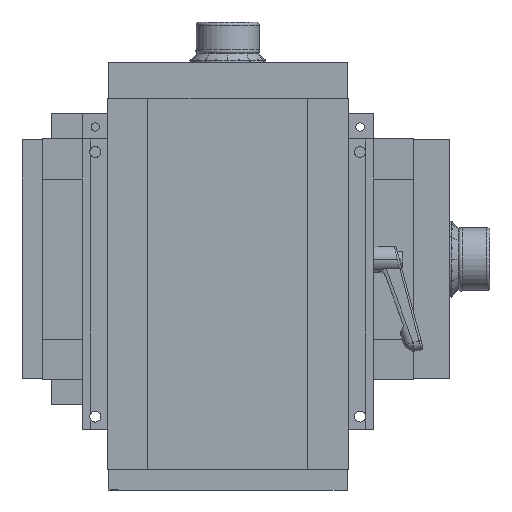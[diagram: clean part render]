
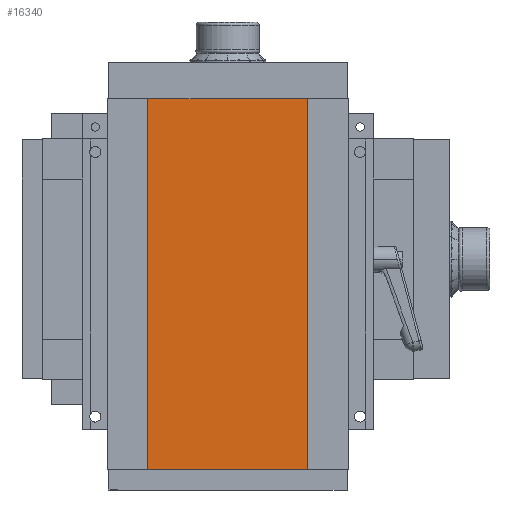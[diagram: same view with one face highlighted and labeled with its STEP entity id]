
A CAD part, front view. The second image highlights one B-rep face of the part: STEP entity #16340.
In plain terms, the highlighted planar face has unit normal (0, -1, 0).
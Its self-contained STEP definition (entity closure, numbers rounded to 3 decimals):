
#1720 = VERTEX_POINT ( 'NONE', #19013 ) ;
#18509 = VERTEX_POINT ( 'NONE', #14026 ) ;
#18731 = EDGE_CURVE ( 'NONE', #18509, #19817, #14148, .T. ) ;
#19013 = CARTESIAN_POINT ( 'NONE',  ( 41.155, 0., -92.5 ) ) ;
#19177 = VERTEX_POINT ( 'NONE', #14432 ) ;
#3219 = LINE ( 'NONE', #3222, #3223 ) ;
#3222 = CARTESIAN_POINT ( 'NONE',  ( -41.155, 0., 92.5 ) ) ;
#3223 = VECTOR ( 'NONE', #3224, 1000. ) ;
#3224 = DIRECTION ( 'NONE',  ( 1., 0., 0. ) ) ;
#19817 = VERTEX_POINT ( 'NONE', #14867 ) ;
#6339 = LINE ( 'NONE', #6340, #6341 ) ;
#6340 = CARTESIAN_POINT ( 'NONE',  ( 41.155, 0., 92.5 ) ) ;
#6341 = VECTOR ( 'NONE', #6342, 1000. ) ;
#6342 = DIRECTION ( 'NONE',  ( 0., 0., -1. ) ) ;
#6992 = ORIENTED_EDGE ( 'NONE', *, *, #18731, .T. ) ;
#7600 = EDGE_CURVE ( 'NONE', #18509, #19177, #3219, .T. ) ;
#7978 = ORIENTED_EDGE ( 'NONE', *, *, #7600, .F. ) ;
#8598 = ORIENTED_EDGE ( 'NONE', *, *, #9808, .F. ) ;
#9559 = LINE ( 'NONE', #9560, #9561 ) ;
#9560 = CARTESIAN_POINT ( 'NONE',  ( -41.155, 0., -92.5 ) ) ;
#9561 = VECTOR ( 'NONE', #9565, 1000. ) ;
#9565 = DIRECTION ( 'NONE',  ( 1., 0., 0. ) ) ;
#9808 = EDGE_CURVE ( 'NONE', #19177, #1720, #6339, .T. ) ;
#10332 = FACE_OUTER_BOUND ( 'NONE', #16088, .T. ) ;
#10333 = PLANE ( 'NONE',  #10339 ) ;
#10339 = AXIS2_PLACEMENT_3D ( 'NONE', #10340, #10341, #10342 ) ;
#10340 = CARTESIAN_POINT ( 'NONE',  ( -41.155, 0., 92.5 ) ) ;
#10341 = DIRECTION ( 'NONE',  ( 0., 1., 0. ) ) ;
#10342 = DIRECTION ( 'NONE',  ( 0., 0., 1. ) ) ;
#14026 = CARTESIAN_POINT ( 'NONE',  ( -41.155, 0., 92.5 ) ) ;
#14148 = LINE ( 'NONE', #14149, #14150 ) ;
#14149 = CARTESIAN_POINT ( 'NONE',  ( -41.155, 0., 92.5 ) ) ;
#14150 = VECTOR ( 'NONE', #14151, 1000. ) ;
#14151 = DIRECTION ( 'NONE',  ( 0., 0., -1. ) ) ;
#14432 = CARTESIAN_POINT ( 'NONE',  ( 41.155, 0., 92.5 ) ) ;
#14867 = CARTESIAN_POINT ( 'NONE',  ( -41.155, 0., -92.5 ) ) ;
#15086 = EDGE_CURVE ( 'NONE', #19817, #1720, #9559, .T. ) ;
#15483 = ORIENTED_EDGE ( 'NONE', *, *, #15086, .T. ) ;
#16088 = EDGE_LOOP ( 'NONE', ( #15483, #8598, #7978, #6992 ) ) ;
#16340 = ADVANCED_FACE ( 'NONE', ( #10332 ), #10333, .F. ) ;
